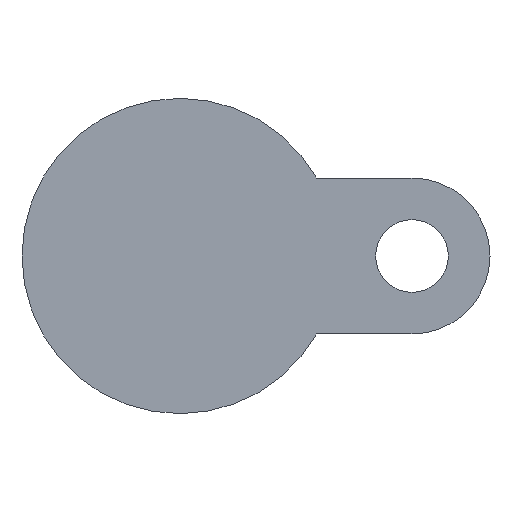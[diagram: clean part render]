
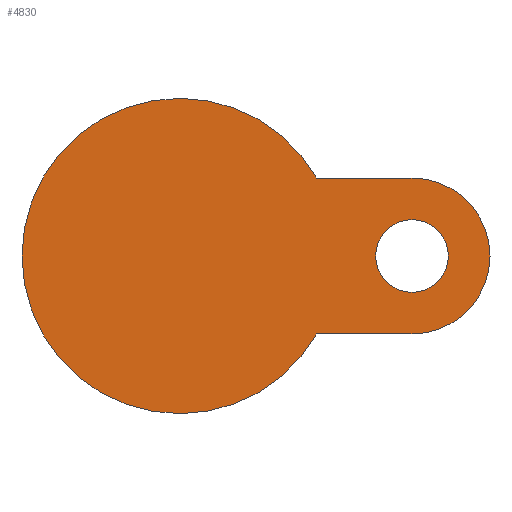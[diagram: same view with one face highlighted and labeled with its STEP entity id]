
A CAD part, front view. The second image highlights one B-rep face of the part: STEP entity #4830.
In plain terms, the highlighted planar face has unit normal (0, -1, 0).
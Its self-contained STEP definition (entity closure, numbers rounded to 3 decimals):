
#35 = DIRECTION ( 'NONE',  ( -1., 0., 0. ) ) ;
#131 = CARTESIAN_POINT ( 'NONE',  ( 0., -17., 0. ) ) ;
#210 = EDGE_CURVE ( 'NONE', #246, #2966, #3441, .T. ) ;
#246 = VERTEX_POINT ( 'NONE', #5246 ) ;
#272 = CIRCLE ( 'NONE', #1439, 18.8 ) ;
#557 = EDGE_CURVE ( 'NONE', #3746, #1224, #272, .T. ) ;
#582 = PLANE ( 'NONE',  #3197 ) ;
#800 = EDGE_CURVE ( 'NONE', #246, #5198, #1520, .T. ) ;
#904 = VECTOR ( 'NONE', #1698, 1000. ) ;
#931 = AXIS2_PLACEMENT_3D ( 'NONE', #3863, #3887, #4359 ) ;
#977 = EDGE_CURVE ( 'NONE', #5474, #1786, #992, .T. ) ;
#989 = CARTESIAN_POINT ( 'NONE',  ( 56., -17., 0. ) ) ;
#992 = CIRCLE ( 'NONE', #4709, 8.75 ) ;
#1224 = VERTEX_POINT ( 'NONE', #5419 ) ;
#1239 = CARTESIAN_POINT ( 'NONE',  ( 0., -17., 0. ) ) ;
#1352 = DIRECTION ( 'NONE',  ( 1., 0., 0. ) ) ;
#1372 = EDGE_CURVE ( 'NONE', #2966, #3746, #3328, .T. ) ;
#1439 = AXIS2_PLACEMENT_3D ( 'NONE', #2187, #5267, #4846 ) ;
#1448 = DIRECTION ( 'NONE',  ( 1., 0., 0. ) ) ;
#1472 = CARTESIAN_POINT ( 'NONE',  ( 47.25, -17., 0. ) ) ;
#1473 = CARTESIAN_POINT ( 'NONE',  ( 33.024, -17., 18.8 ) ) ;
#1520 = CIRCLE ( 'NONE', #3645, 38. ) ;
#1698 = DIRECTION ( 'NONE',  ( 1., 0., 0. ) ) ;
#1786 = VERTEX_POINT ( 'NONE', #1472 ) ;
#1822 = CARTESIAN_POINT ( 'NONE',  ( 64.75, -17., 0. ) ) ;
#1833 = DIRECTION ( 'NONE',  ( 0., -1., 0. ) ) ;
#1915 = CARTESIAN_POINT ( 'NONE',  ( 74.8, -17., 0. ) ) ;
#1952 = ORIENTED_EDGE ( 'NONE', *, *, #4908, .T. ) ;
#2107 = CARTESIAN_POINT ( 'NONE',  ( 56., -17., -18.8 ) ) ;
#2187 = CARTESIAN_POINT ( 'NONE',  ( 56., -17., 0. ) ) ;
#2279 = VERTEX_POINT ( 'NONE', #1473 ) ;
#2296 = CIRCLE ( 'NONE', #3890, 8.75 ) ;
#2439 = LINE ( 'NONE', #3711, #2754 ) ;
#2457 = ORIENTED_EDGE ( 'NONE', *, *, #557, .T. ) ;
#2621 = DIRECTION ( 'NONE',  ( 1., 0., 0. ) ) ;
#2705 = DIRECTION ( 'NONE',  ( 0., -1., 0. ) ) ;
#2711 = CARTESIAN_POINT ( 'NONE',  ( 0., -17., 0. ) ) ;
#2727 = ORIENTED_EDGE ( 'NONE', *, *, #5402, .F. ) ;
#2730 = EDGE_LOOP ( 'NONE', ( #4250, #3424, #3046, #2457, #1952, #2727 ) ) ;
#2754 = VECTOR ( 'NONE', #3195, 1000. ) ;
#2966 = VERTEX_POINT ( 'NONE', #3539 ) ;
#3044 = EDGE_CURVE ( 'NONE', #1786, #5474, #2296, .T. ) ;
#3046 = ORIENTED_EDGE ( 'NONE', *, *, #1372, .T. ) ;
#3079 = DIRECTION ( 'NONE',  ( 0., 1., 0. ) ) ;
#3195 = DIRECTION ( 'NONE',  ( -1., 0., 0. ) ) ;
#3197 = AXIS2_PLACEMENT_3D ( 'NONE', #131, #1833, #1448 ) ;
#3328 = CIRCLE ( 'NONE', #931, 18.8 ) ;
#3424 = ORIENTED_EDGE ( 'NONE', *, *, #210, .T. ) ;
#3441 = LINE ( 'NONE', #2107, #904 ) ;
#3539 = CARTESIAN_POINT ( 'NONE',  ( 56., -17., -18.8 ) ) ;
#3552 = CIRCLE ( 'NONE', #3642, 38. ) ;
#3642 = AXIS2_PLACEMENT_3D ( 'NONE', #2711, #3079, #4760 ) ;
#3645 = AXIS2_PLACEMENT_3D ( 'NONE', #1239, #4206, #35 ) ;
#3711 = CARTESIAN_POINT ( 'NONE',  ( 20.593, -17., 18.8 ) ) ;
#3716 = ORIENTED_EDGE ( 'NONE', *, *, #3044, .F. ) ;
#3737 = CARTESIAN_POINT ( 'NONE',  ( -38., -17., 0. ) ) ;
#3746 = VERTEX_POINT ( 'NONE', #1915 ) ;
#3863 = CARTESIAN_POINT ( 'NONE',  ( 56., -17., 0. ) ) ;
#3887 = DIRECTION ( 'NONE',  ( 0., -1., 0. ) ) ;
#3890 = AXIS2_PLACEMENT_3D ( 'NONE', #989, #5152, #1352 ) ;
#3940 = FACE_BOUND ( 'NONE', #4947, .T. ) ;
#4206 = DIRECTION ( 'NONE',  ( 0., 1., 0. ) ) ;
#4250 = ORIENTED_EDGE ( 'NONE', *, *, #800, .F. ) ;
#4253 = ORIENTED_EDGE ( 'NONE', *, *, #977, .F. ) ;
#4359 = DIRECTION ( 'NONE',  ( 1., 0., 0. ) ) ;
#4382 = FACE_OUTER_BOUND ( 'NONE', #2730, .T. ) ;
#4709 = AXIS2_PLACEMENT_3D ( 'NONE', #4812, #2705, #2621 ) ;
#4760 = DIRECTION ( 'NONE',  ( -1., 0., 0. ) ) ;
#4812 = CARTESIAN_POINT ( 'NONE',  ( 56., -17., 0. ) ) ;
#4830 = ADVANCED_FACE ( 'NONE', ( #4382, #3940 ), #582, .T. ) ;
#4846 = DIRECTION ( 'NONE',  ( 1., 0., 0. ) ) ;
#4908 = EDGE_CURVE ( 'NONE', #1224, #2279, #2439, .T. ) ;
#4947 = EDGE_LOOP ( 'NONE', ( #4253, #3716 ) ) ;
#5152 = DIRECTION ( 'NONE',  ( 0., -1., 0. ) ) ;
#5198 = VERTEX_POINT ( 'NONE', #3737 ) ;
#5246 = CARTESIAN_POINT ( 'NONE',  ( 33.024, -17., -18.8 ) ) ;
#5267 = DIRECTION ( 'NONE',  ( 0., -1., 0. ) ) ;
#5402 = EDGE_CURVE ( 'NONE', #5198, #2279, #3552, .T. ) ;
#5419 = CARTESIAN_POINT ( 'NONE',  ( 56., -17., 18.8 ) ) ;
#5474 = VERTEX_POINT ( 'NONE', #1822 ) ;
